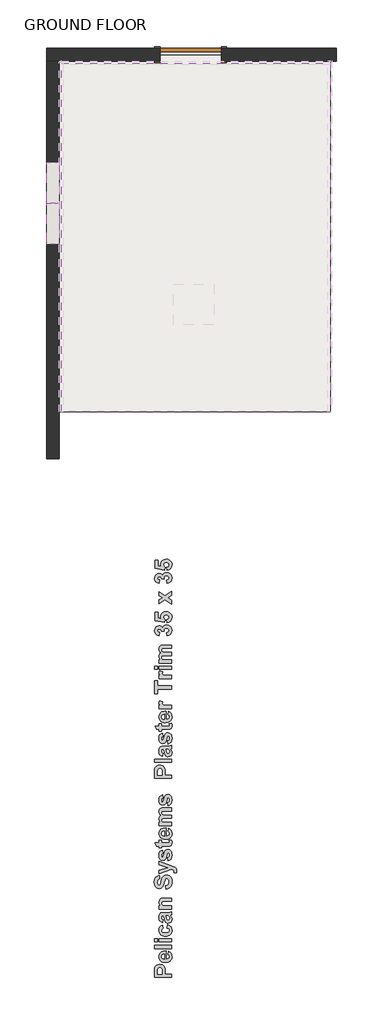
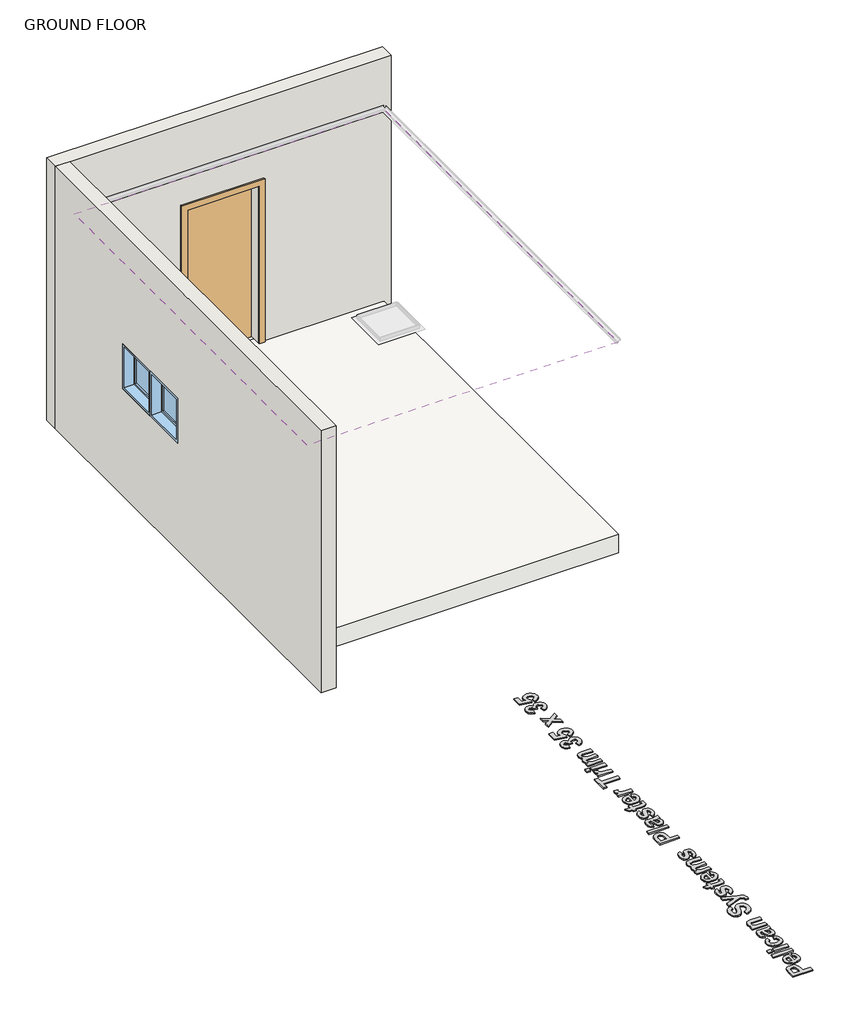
# One storey, part 1 of 2: 2 walls, 2 windows, 1 covering, 1 door, 1 proxy, 1 slab.
"""IFC4 building model written with IfcOpenShell, lengths in millimetres."""

from ifc_helpers import new_model, si_unit, frame, origin, origin_with_axes, place, context, project, spatial, polyline, outline, extrude, faceted_brep, transform, mapped, element, save
from components import m_single_flush_0915_x_2134mm_f5238887, m_fixed_0610_x_0610mm_09852ef8

model = new_model("IFC4")

# Units and contexts
model_context = context("Model", 3, world=origin())
ifc_project = project(units=[si_unit("LENGTHUNIT", "METRE", prefix="MILLI")], contexts=[model_context])

# Site, building, storey
site = spatial("IfcSite", under=ifc_project)
building = spatial("IfcBuilding", under=site)
storey = spatial("IfcBuildingStorey", under=building, Name="GROUND FLOOR", Elevation=0.0)

# Proxy
placement = place(None, origin())
element("IfcBuildingElementProxy", 1, Name="600mm Arial", ObjectType="600mm Arial", at=placement, inside=storey, context=model_context, shape_type="SweptSolid", body=[
    extrude(outline(polyline([(122113.2453886, 28619.5960325), (121858.1805386, 28619.5960325), (121858.1805386, 28701.7709432), (121861.9761465, 28762.6904498), (121871.0302528, 28782.736004), (121886.8057481, 28799.2231757), (121908.7174761, 28810.2541612), (121936.1802807, 28813.9311563), (121957.6650028, 28811.7724043), (121975.4331923, 28805.2961484), (121989.6350918, 28795.490828), (122000.4209442, 28783.3448827), (122012.4719992, 28756.3011766), (122016.0778267, 28702.2137642), (122016.0778267, 28668.1798134), (122113.2453886, 28668.1798134), (122113.2453886, 28619.5960325)]), holes=[polyline([(121902.7156712, 28668.1798134), (121971.5426942, 28668.1798134), (121971.5426942, 28698.3548961), (121967.7470863, 28741.9094966), (121955.8225515, 28759.1162524), (121947.0373008, 28763.7895946), (121936.9394023, 28765.3473753), (121924.8725322, 28763.1569933), (121915.1146569, 28756.5858471), (121908.1244124, 28746.6777291), (121904.3604346, 28734.4764312), (121902.7156712, 28694.8123288), (121902.7156712, 28668.1798134)])]), origin_with_axes(), (0.0, 0.0, 1.0), 15.0),
    extrude(outline(polyline([(122056.5643108, 28959.6824992), (122064.6616077, 29008.2662801), (122087.3324573, 28996.4366355), (122103.8512591, 28979.2931399), (122113.9333426, 28957.0097586), (122117.294037, 28929.760457), (122115.3132042, 28907.7577925), (122109.3707056, 28888.8153369), (122099.4665412, 28872.9330901), (122085.6007112, 28860.1110523), (122056.8964265, 28846.7315345), (122021.518198, 28842.2716952), (121999.6776376, 28843.7504008), (121980.3358525, 28848.1865175), (121963.4928425, 28855.5800453), (121949.1486077, 28865.9309843), (121937.6906163, 28878.5434731), (121929.5063368, 28892.72165), (121924.5957691, 28908.4655152), (121922.9589132, 28925.7750687), (121924.6392605, 28945.0101024), (121929.6803022, 28962.1021992), (121938.0820384, 28977.051359), (121949.8444691, 28989.8575819), (121965.0782995, 29000.0622318), (121983.8942348, 29007.2066729), (122006.2922751, 29011.2909051), (122032.2724204, 29012.3149285), (122032.2724204, 28890.8554761), (122052.7370729, 28893.9710376), (122068.0776548, 28902.3055599), (122077.6615647, 28914.5938405), (122080.8562013, 28929.5706766), (122079.4170333, 28939.7713728), (122075.0995294, 28948.2324154), (122067.5873888, 28954.8905442), (122056.5643108, 28959.6824992)]), holes=[polyline([(122003.9318815, 28963.7311476), (121984.7245241, 28960.7737364), (121970.7519425, 28952.9136651), (121962.2355473, 28941.4952114), (121959.3967489, 28927.862653), (121962.3857902, 28913.4709731), (121971.3529138, 28901.7994789), (121985.5073682, 28894.145003), (122003.9318815, 28891.6778578), (122003.9318815, 28963.7311476)])]), origin_with_axes(), (0.0, 0.0, 1.0), 15.0),
    extrude(outline(polyline([(122113.2453886, 29048.7527642), (121858.1805386, 29048.7527642), (121858.1805386, 29097.3365452), (122113.2453886, 29097.3365452), (122113.2453886, 29048.7527642)])), origin_with_axes(), (0.0, 0.0, 1.0), 15.0),
    extrude(outline(polyline([(121902.7156712, 29145.9203261), (121858.1805386, 29145.9203261), (121858.1805386, 29194.5041071), (121902.7156712, 29194.5041071), (121902.7156712, 29145.9203261)])), origin_with_axes(), (0.0, 0.0, 1.0), 15.0),
    extrude(outline(polyline([(122113.2453886, 29145.9203261), (121927.0075616, 29145.9203261), (121927.0075616, 29194.5041071), (122113.2453886, 29194.5041071), (122113.2453886, 29145.9203261)])), origin_with_axes(), (0.0, 0.0, 1.0), 15.0),
    extrude(outline(polyline([(121979.639991, 29396.9365277), (121987.7372878, 29348.3527468), (121975.3778397, 29344.6283065), (121966.5135137, 29338.0097153), (121961.1759401, 29328.7341985), (121959.3967489, 29317.0389817), (121962.7337209, 29301.6351397), (121972.7446367, 29289.7106049), (121990.5681787, 29282.071944), (122017.3430293, 29279.5257237), (122047.027846, 29282.1747417), (122066.4961515, 29290.1217958), (122077.2661889, 29302.528689), (122080.8562013, 29318.5572248), (122078.8081546, 29330.6952626), (122072.6640143, 29340.4136003), (122061.5065086, 29347.6647928), (122044.4183656, 29352.4013952), (122052.5156624, 29400.9851761), (122080.6585134, 29390.3495665), (122100.9412931, 29372.992568), (122113.205851, 29348.7560301), (122117.294037, 29317.4818026), (122115.6848574, 29298.7152892), (122110.8573187, 29281.9533313), (122102.8114207, 29267.1959287), (122091.5471635, 29254.4430816), (122077.4401542, 29244.1613334), (122060.8659998, 29236.8172275), (122041.8247002, 29232.410764), (122020.3162555, 29230.9419428), (121998.5646547, 29232.4008796), (121979.3632279, 29236.7776899), (121962.7119752, 29244.0723738), (121948.6108965, 29254.2849313), (121937.3881538, 29266.9883564), (121929.3719091, 29281.7556434), (121924.5621622, 29298.5867921), (121922.9589132, 29317.4818026), (121926.461943, 29346.7237984), (121936.9710323, 29369.2918503), (121954.6443316, 29385.8185596), (121979.639991, 29396.9365277)])), origin_with_axes(), (0.0, 0.0, 1.0), 15.0),
    extrude(outline(polyline([(121983.6886394, 29477.909496), (121975.5913426, 29433.3743634), (121952.2483541, 29443.029441), (121935.86398, 29457.8244042), (121926.1851799, 29479.3882015), (121922.9589132, 29509.3497813), (121924.9120698, 29536.4409326), (121930.7715395, 29555.5929374), (121939.6279579, 29568.5296343), (121950.5719606, 29576.9748618), (121967.5810285, 29581.6244815), (121994.6326422, 29583.1743547), (122052.0728415, 29583.1743547), (122088.2576367, 29585.73639), (122113.2453886, 29595.3202999), (122113.2453886, 29546.736519), (122097.8099165, 29542.1817895), (122091.6736838, 29540.473766), (122110.8731337, 29514.4738519), (122115.6888112, 29500.1612472), (122117.294037, 29484.9313705), (122113.3956314, 29460.1571216), (122101.7004146, 29441.2502498), (122084.0587455, 29429.2703624), (122062.3209828, 29425.2770666), (122047.4232219, 29427.0562578), (122034.2334844, 29432.3938314), (122023.3369268, 29440.9418566), (122015.3187051, 29452.3524029), (122003.8686214, 29489.3595797), (121991.7859362, 29534.5905737), (121986.6618656, 29534.5905737), (121974.0414694, 29533.0802381), (121965.659502, 29528.5492312), (121960.9624372, 29519.8430556), (121959.3967489, 29505.8072139), (121960.7410267, 29495.733038), (121964.7738601, 29488.1576372), (121983.6886394, 29477.909496)]), holes=[polyline([(122028.223772, 29534.5905737), (122034.960976, 29507.1989368), (122042.6470819, 29482.6540058), (122049.5582513, 29476.0591371), (122058.1458141, 29473.8608475), (122066.7570995, 29475.6242237), (122074.1189973, 29480.9143522), (122079.1719003, 29488.9246663), (122080.8562013, 29498.8485995), (122078.8951372, 29510.7573192), (122073.011945, 29522.0650677), (122058.4621148, 29532.81929), (122037.0169302, 29534.5905737), (122028.223772, 29534.5905737)])]), origin_with_axes(), (0.0, 0.0, 1.0), 15.0),
    extrude(outline(polyline([(122113.2453886, 29797.7527205), (122113.2453886, 29749.1689396), (122017.5328097, 29749.1689396), (121978.185008, 29746.1324533), (121964.3310392, 29736.2006126), (121959.3967489, 29719.6897183), (121961.1601251, 29707.9312414), (121966.4502536, 29697.4537821), (121974.6582557, 29689.1667049), (121985.1752525, 29683.9793741), (122028.2870321, 29680.3419166), (122113.2453886, 29680.3419166), (122113.2453886, 29631.7581356), (121927.0075616, 29631.7581356), (121927.0075616, 29680.3419166), (121953.8298574, 29680.3419166), (121940.3238193, 29692.6341509), (121930.6766493, 29706.4209058), (121924.8883472, 29721.7021813), (121922.9589132, 29738.4779774), (121928.8421055, 29766.691996), (121943.8347566, 29786.0495962), (121964.4891895, 29795.1906852), (121997.6058683, 29797.7527205), (122113.2453886, 29797.7527205)])), origin_with_axes(), (0.0, 0.0, 1.0), 15.0),
    extrude(outline(polyline([(122028.223772, 29931.3581182), (122024.1751235, 29979.9418991), (122045.9049787, 29987.0270338), (122060.99252, 29998.9199385), (122069.8173084, 30015.6996884), (122072.7589045, 30037.4453586), (122070.1573316, 30060.0134105), (122062.3526129, 30076.2238192), (122051.0685869, 30085.9975095), (122038.0290923, 30089.2554062), (122022.8150307, 30083.846665), (122011.902658, 30064.9002556), (122001.0851756, 30022.7690081), (121989.9039473, 29986.8056234), (121976.2239439, 29963.4310048), (121952.9284005, 29945.4493124), (121925.0464976, 29939.455415), (121906.2582385, 29942.2072307), (121888.7351821, 29950.4626779), (121873.8532362, 29963.9054558), (121862.9883086, 29982.2192638), (121856.3459948, 30005.1036164), (121854.1318902, 30032.2580278), (121859.6513367, 30074.2232175), (121866.5506448, 30090.763765), (121876.2096761, 30104.3429476), (121888.1697947, 30115.0042566), (121901.9723646, 30122.7911834), (121917.6173859, 30127.703728), (121935.1048585, 30129.7418904), (121935.1048585, 30081.1581094), (121918.4120913, 30075.7889058), (121907.1755104, 30066.513389), (121900.7941447, 30052.4775473), (121898.6670228, 30032.827369), (121900.9285725, 30012.141306), (121907.7132216, 29996.5160535), (121914.5136857, 29990.1584103), (121923.2752139, 29988.0391959), (121931.5464761, 29989.9686299), (121938.5209056, 29995.756932), (121946.68937, 30012.5604044), (121955.1266901, 30043.3601809), (121963.9040333, 30076.2317267), (121973.0925674, 30099.250507), (121984.218443, 30115.3818405), (121998.8078108, 30127.5910459), (122017.0425437, 30135.2771519), (122039.1045146, 30137.8391872), (122060.1701383, 30134.8106084), (122079.8440392, 30125.724872), (122096.3865636, 30111.0959666), (122108.0580578, 30091.4378808), (122114.9850422, 30066.5371115), (122117.294037, 30036.180156), (122115.872661, 30013.4776763), (122111.6085327, 29993.5744574), (122104.5016523, 29976.4704994), (122094.5520198, 29962.1658022), (122081.8782478, 29950.5615218), (122066.5989492, 29941.5588144), (122048.7141239, 29935.1576798), (122028.223772, 29931.3581182)])), origin_with_axes(), (0.0, 0.0, 1.0), 15.0),
    extrude(outline(polyline([(121927.0075616, 30158.0824293), (121927.0075616, 30206.6662102), (122058.8416756, 30249.1770185), (121927.0075616, 30291.6878269), (121927.0075616, 30340.2716078), (122105.4643925, 30277.2645169), (122138.6127013, 30265.5613926), (122162.2087304, 30254.0164186), (122175.4300978, 30241.3960224), (122183.3059842, 30223.8413359), (122186.12106, 30200.3401971), (122183.3376143, 30174.2770229), (122147.3425995, 30170.2283745), (122149.6832243, 30189.5227146), (122147.1132815, 30203.2897007), (122139.403453, 30212.9605933), (122113.2453886, 30224.6320875), (121927.0075616, 30158.0824293)])), origin_with_axes(), (0.0, 0.0, 1.0), 15.0),
    extrude(outline(polyline([(122060.6129593, 30348.3689046), (122052.5156624, 30396.9526856), (122064.7564979, 30401.5785827), (122073.6445463, 30409.3833014), (122079.0532876, 30420.6356973), (122080.8562013, 30435.6046259), (122079.1323627, 30451.8466647), (122073.960847, 30463.5023439), (122068.3306953, 30468.2468537), (122061.0557802, 30469.828357), (122051.9463213, 30466.4755701), (122045.557048, 30450.5972771), (122033.1264321, 30403.6740746), (122021.7712386, 30377.7848658), (122003.7895462, 30361.7958675), (121979.9562917, 30356.4662015), (121957.7678006, 30361.036746), (121939.4065474, 30374.7483795), (121927.0708218, 30398.0755529), (121922.9589132, 30431.4927174), (121926.2800701, 30463.3600086), (121936.2435408, 30485.8331703), (121952.7228051, 30500.8416365), (121975.5913426, 30510.3148411), (121983.6886394, 30461.7310602), (121973.2981628, 30458.1568628), (121965.659502, 30452.3685607), (121960.9624372, 30444.0182234), (121959.3967489, 30432.75792), (121960.7252117, 30418.9197662), (121964.7106, 30409.667972), (121974.5791805, 30405.0499824), (121983.3723388, 30409.667972), (121996.973267, 30452.6532313), (122006.7944024, 30483.8800137), (122018.6714921, 30503.988828), (122034.3441897, 30514.8063105), (122055.172588, 30518.412138), (122078.8714147, 30513.1852696), (122098.980229, 30497.5046645), (122106.99252, 30485.7956096), (122112.715585, 30471.5759182), (122117.294037, 30435.6046259), (122113.4826141, 30402.2902592), (122102.0483454, 30376.7410736), (122084.066653, 30358.8147339), (122060.6129593, 30348.3689046)])), origin_with_axes(), (0.0, 0.0, 1.0), 15.0),
    extrude(outline(polyline([(121927.0075616, 30652.0175356), (121963.4453974, 30652.0175356), (121963.4453974, 30615.5796999), (122043.3429434, 30615.5796999), (122071.5885921, 30616.6867522), (122078.2309059, 30621.7159326), (122080.8562013, 30631.2682125), (122076.1749516, 30654.0418598), (122110.7149834, 30656.066184), (122115.6492736, 30637.3253701), (122117.294037, 30616.2755613), (122112.7393076, 30591.7306303), (122100.9729231, 30575.694187), (122081.4255425, 30568.5774222), (122046.063129, 30566.9959189), (121963.4453974, 30566.9959189), (121963.4453974, 30542.7040284), (121927.0075616, 30542.7040284), (121927.0075616, 30566.9959189), (121890.5697259, 30566.9959189), (121862.229187, 30615.5796999), (121927.0075616, 30615.5796999), (121927.0075616, 30652.0175356)])), origin_with_axes(), (0.0, 0.0, 1.0), 15.0),
    extrude(outline(polyline([(122056.5643108, 30785.6229332), (122064.6616077, 30834.2067142), (122087.3324573, 30822.3770696), (122103.8512591, 30805.2335739), (122113.9333426, 30782.9501926), (122117.294037, 30755.700891), (122115.3132042, 30733.6982266), (122109.3707056, 30714.7557709), (122099.4665412, 30698.8735242), (122085.6007112, 30686.0514863), (122056.8964265, 30672.6719685), (122021.518198, 30668.2121292), (121999.6776376, 30669.6908348), (121980.3358525, 30674.1269515), (121963.4928425, 30681.5204794), (121949.1486077, 30691.8714184), (121937.6906163, 30704.4839071), (121929.5063368, 30718.6620841), (121924.5957691, 30734.4059493), (121922.9589132, 30751.7155027), (121924.6392605, 30770.9505365), (121929.6803022, 30788.0426332), (121938.0820384, 30802.991793), (121949.8444691, 30815.7980159), (121965.0782995, 30826.0026659), (121983.8942348, 30833.1471069), (122006.2922751, 30837.2313392), (122032.2724204, 30838.2553626), (122032.2724204, 30716.7959102), (122052.7370729, 30719.9114717), (122068.0776548, 30728.245994), (122077.6615647, 30740.5342745), (122080.8562013, 30755.5111106), (122079.4170333, 30765.7118068), (122075.0995294, 30774.1728494), (122067.5873888, 30780.8309782), (122056.5643108, 30785.6229332)]), holes=[polyline([(122003.9318815, 30789.6715816), (121984.7245241, 30786.7141705), (121970.7519425, 30778.8540991), (121962.2355473, 30767.4356454), (121959.3967489, 30753.8030871), (121962.3857902, 30739.4114072), (121971.3529138, 30727.7399129), (121985.5073682, 30720.085437), (122003.9318815, 30717.6182919), (122003.9318815, 30789.6715816)])]), origin_with_axes(), (0.0, 0.0, 1.0), 15.0),
    extrude(outline(polyline([(121927.0075616, 30870.6445499), (121927.0075616, 30919.2283308), (121951.9320534, 30919.2283308), (121939.2563046, 30931.1884494), (121930.2021983, 30944.2318978), (121924.7697345, 30958.3586759), (121922.9589132, 30973.5687837), (121924.7381044, 30989.2177587), (121930.075678, 31002.6368141), (121939.0190791, 31013.8417649), (121951.6157528, 31022.8484261), (121939.0190791, 31035.2869495), (121930.075678, 31048.6901898), (121924.7381044, 31063.0423321), (121922.9589132, 31078.3275614), (121925.0385901, 31096.7837047), (121931.2776205, 31112.1717317), (121941.5494844, 31124.2860469), (121955.7276613, 31132.9210548), (121971.3054687, 31136.6217725), (121994.2530814, 31137.8553451), (122113.2453886, 31137.8553451), (122113.2453886, 31089.2715641), (122006.0194658, 31089.2715641), (121983.0718531, 31088.0379916), (121970.024451, 31084.3372739), (121962.0536745, 31075.9553065), (121959.3967489, 31063.9675116), (121960.9861597, 31054.2649889), (121965.7543922, 31045.1476225), (121973.5907409, 31037.5564067), (121984.3845009, 31032.432336), (122023.1629614, 31028.541838), (122113.2453886, 31028.541838), (122113.2453886, 30979.958057), (122010.447675, 30979.958057), (121975.1168916, 30977.4276517), (121963.287247, 30969.6150255), (121959.3967489, 30955.2233456), (121960.9387146, 30944.832869), (121965.5646118, 30935.5494447), (121973.1083824, 30928.0531192), (121983.4039688, 30923.0239387), (122022.0875392, 30919.2283308), (122113.2453886, 30919.2283308), (122113.2453886, 30870.6445499), (121927.0075616, 30870.6445499)])), origin_with_axes(), (0.0, 0.0, 1.0), 15.0),
    extrude(outline(polyline([(122060.6129593, 31166.195884), (122052.5156624, 31214.7796649), (122064.7564979, 31219.405562), (122073.6445463, 31227.2102808), (122079.0532876, 31238.4626766), (122080.8562013, 31253.4316052), (122079.1323627, 31269.673644), (122073.960847, 31281.3293232), (122068.3306953, 31286.0738331), (122061.0557802, 31287.6553364), (122051.9463213, 31284.3025494), (122045.557048, 31268.4242564), (122033.1264321, 31221.5010539), (122021.7712386, 31195.6118451), (122003.7895462, 31179.6228469), (121979.9562917, 31174.2931808), (121957.7678006, 31178.8637253), (121939.4065474, 31192.5753588), (121927.0708218, 31215.9025323), (121922.9589132, 31249.3196967), (121926.2800701, 31281.1869879), (121936.2435408, 31303.6601496), (121952.7228051, 31318.6686158), (121975.5913426, 31328.1418205), (121983.6886394, 31279.5580395), (121973.2981628, 31275.9838421), (121965.659502, 31270.1955401), (121960.9624372, 31261.8452027), (121959.3967489, 31250.5848993), (121960.7252117, 31236.7467456), (121964.7106, 31227.4949513), (121974.5791805, 31222.8769618), (121983.3723388, 31227.4949513), (121996.973267, 31270.4802107), (122006.7944024, 31301.7069931), (122018.6714921, 31321.8158073), (122034.3441897, 31332.6332898), (122055.172588, 31336.2391173), (122078.8714147, 31331.0122489), (122098.980229, 31315.3316439), (122106.99252, 31303.6225889), (122112.715585, 31289.4028975), (122117.294037, 31253.4316052), (122113.4826141, 31220.1172385), (122102.0483454, 31194.5680529), (122084.066653, 31176.6417132), (122060.6129593, 31166.195884)])), origin_with_axes(), (0.0, 0.0, 1.0), 15.0),
    extrude(outline(polyline([(122113.2453886, 31575.1093736), (121858.1805386, 31575.1093736), (121858.1805386, 31657.2842844), (121861.9761465, 31718.203791), (121871.0302528, 31738.2493451), (121886.8057481, 31754.7365169), (121908.7174761, 31765.7675023), (121936.1802807, 31769.4444974), (121957.6650028, 31767.2857455), (121975.4331923, 31760.8094895), (121989.6350918, 31751.0041691), (122000.4209442, 31738.8582239), (122012.4719992, 31711.8145177), (122016.0778267, 31657.7271053), (122016.0778267, 31623.6931546), (122113.2453886, 31623.6931546), (122113.2453886, 31575.1093736)]), holes=[polyline([(121902.7156712, 31623.6931546), (121971.5426942, 31623.6931546), (121971.5426942, 31653.8682373), (121967.7470863, 31697.4228378), (121955.8225515, 31714.6295935), (121947.0373008, 31719.3029358), (121936.9394023, 31720.8607165), (121924.8725322, 31718.6703344), (121915.1146569, 31712.0991883), (121908.1244124, 31702.1910702), (121904.3604346, 31689.9897723), (121902.7156712, 31650.3256699), (121902.7156712, 31623.6931546)])]), origin_with_axes(), (0.0, 0.0, 1.0), 15.0),
    extrude(outline(polyline([(122113.2453886, 31809.9309816), (121858.1805386, 31809.9309816), (121858.1805386, 31858.5147625), (122113.2453886, 31858.5147625), (122113.2453886, 31809.9309816)])), origin_with_axes(), (0.0, 0.0, 1.0), 15.0),
    extrude(outline(polyline([(121983.6886394, 31947.5850276), (121975.5913426, 31903.0498951), (121952.2483541, 31912.7049726), (121935.86398, 31927.4999359), (121926.1851799, 31949.0637332), (121922.9589132, 31979.0253129), (121924.9120698, 32006.1164642), (121930.7715395, 32025.268469), (121939.6279579, 32038.2051659), (121950.5719606, 32046.6503934), (121967.5810285, 32051.3000131), (121994.6326422, 32052.8498863), (122052.0728415, 32052.8498863), (122088.2576367, 32055.4119216), (122113.2453886, 32064.9958316), (122113.2453886, 32016.4120506), (122097.8099165, 32011.8573211), (122091.6736838, 32010.1492976), (122110.8731337, 31984.1493836), (122115.6888112, 31969.8367788), (122117.294037, 31954.6069022), (122113.3956314, 31929.8326532), (122101.7004146, 31910.9257814), (122084.0587455, 31898.945894), (122062.3209828, 31894.9525982), (122047.4232219, 31896.7317894), (122034.2334844, 31902.069363), (122023.3369268, 31910.6173883), (122015.3187051, 31922.0279345), (122003.8686214, 31959.0351114), (121991.7859362, 32004.2661054), (121986.6618656, 32004.2661054), (121974.0414694, 32002.7557697), (121965.659502, 31998.2247628), (121960.9624372, 31989.5185872), (121959.3967489, 31975.4827456), (121960.7410267, 31965.4085696), (121964.7738601, 31957.8331689), (121983.6886394, 31947.5850276)]), holes=[polyline([(122028.223772, 32004.2661054), (122034.960976, 31976.8744685), (122042.6470819, 31952.3295375), (122049.5582513, 31945.7346688), (122058.1458141, 31943.5363792), (122066.7570995, 31945.2997553), (122074.1189973, 31950.5898838), (122079.1719003, 31958.600198), (122080.8562013, 31968.5241311), (122078.8951372, 31980.4328508), (122073.011945, 31991.7405993), (122058.4621148, 32002.4948217), (122037.0169302, 32004.2661054), (122028.223772, 32004.2661054)])]), origin_with_axes(), (0.0, 0.0, 1.0), 15.0),
    extrude(outline(polyline([(122060.6129593, 32081.1904252), (122052.5156624, 32129.7742062), (122064.7564979, 32134.4001033), (122073.6445463, 32142.204822), (122079.0532876, 32153.4572179), (122080.8562013, 32168.4261465), (122079.1323627, 32184.6681852), (122073.960847, 32196.3238644), (122068.3306953, 32201.0683743), (122061.0557802, 32202.6498776), (122051.9463213, 32199.2970906), (122045.557048, 32183.4187976), (122033.1264321, 32136.4955951), (122021.7712386, 32110.6063863), (122003.7895462, 32094.6173881), (121979.9562917, 32089.287722), (121957.7678006, 32093.8582665), (121939.4065474, 32107.5699), (121927.0708218, 32130.8970735), (121922.9589132, 32164.3142379), (121926.2800701, 32196.1815291), (121936.2435408, 32218.6546908), (121952.7228051, 32233.663157), (121975.5913426, 32243.1363617), (121983.6886394, 32194.5525808), (121973.2981628, 32190.9783833), (121965.659502, 32185.1900813), (121960.9624372, 32176.839744), (121959.3967489, 32165.5794406), (121960.7252117, 32151.7412868), (121964.7106, 32142.4894926), (121974.5791805, 32137.871503), (121983.3723388, 32142.4894926), (121996.973267, 32185.4747519), (122006.7944024, 32216.7015343), (122018.6714921, 32236.8103486), (122034.3441897, 32247.627831), (122055.172588, 32251.2336585), (122078.8714147, 32246.0067902), (122098.980229, 32230.3261851), (122106.99252, 32218.6171301), (122112.715585, 32204.3974387), (122117.294037, 32168.4261465), (122113.4826141, 32135.1117798), (122102.0483454, 32109.5625942), (122084.066653, 32091.6362544), (122060.6129593, 32081.1904252)])), origin_with_axes(), (0.0, 0.0, 1.0), 15.0),
    extrude(outline(polyline([(121927.0075616, 32384.8390561), (121963.4453974, 32384.8390561), (121963.4453974, 32348.4012204), (122043.3429434, 32348.4012204), (122071.5885921, 32349.5082727), (122078.2309059, 32354.5374532), (122080.8562013, 32364.089733), (122076.1749516, 32386.8633804), (122110.7149834, 32388.8877046), (122115.6492736, 32370.1468906), (122117.294037, 32349.0970819), (122112.7393076, 32324.5521509), (122100.9729231, 32308.5157076), (122081.4255425, 32301.3989428), (122046.063129, 32299.8174395), (121963.4453974, 32299.8174395), (121963.4453974, 32275.525549), (121927.0075616, 32275.525549), (121927.0075616, 32299.8174395), (121890.5697259, 32299.8174395), (121862.229187, 32348.4012204), (121927.0075616, 32348.4012204), (121927.0075616, 32384.8390561)])), origin_with_axes(), (0.0, 0.0, 1.0), 15.0),
    extrude(outline(polyline([(122056.5643108, 32518.4444538), (122064.6616077, 32567.0282347), (122087.3324573, 32555.1985901), (122103.8512591, 32538.0550945), (122113.9333426, 32515.7717132), (122117.294037, 32488.5224116), (122115.3132042, 32466.5197471), (122109.3707056, 32447.5772915), (122099.4665412, 32431.6950448), (122085.6007112, 32418.8730069), (122056.8964265, 32405.4934891), (122021.518198, 32401.0336498), (121999.6776376, 32402.5123554), (121980.3358525, 32406.9484721), (121963.4928425, 32414.342), (121949.1486077, 32424.692939), (121937.6906163, 32437.3054277), (121929.5063368, 32451.4836046), (121924.5957691, 32467.2274698), (121922.9589132, 32484.5370233), (121924.6392605, 32503.772057), (121929.6803022, 32520.8641538), (121938.0820384, 32535.8133136), (121949.8444691, 32548.6195365), (121965.0782995, 32558.8241864), (121983.8942348, 32565.9686275), (122006.2922751, 32570.0528597), (122032.2724204, 32571.0768831), (122032.2724204, 32449.6174307), (122052.7370729, 32452.7329922), (122068.0776548, 32461.0675145), (122077.6615647, 32473.3557951), (122080.8562013, 32488.3326312), (122079.4170333, 32498.5333274), (122075.0995294, 32506.99437), (122067.5873888, 32513.6524988), (122056.5643108, 32518.4444538)]), holes=[polyline([(122003.9318815, 32522.4931022), (121984.7245241, 32519.535691), (121970.7519425, 32511.6756197), (121962.2355473, 32500.257166), (121959.3967489, 32486.6246076), (121962.3857902, 32472.2329277), (121971.3529138, 32460.5614335), (121985.5073682, 32452.9069576), (122003.9318815, 32450.4398125), (122003.9318815, 32522.4931022)])]), origin_with_axes(), (0.0, 0.0, 1.0), 15.0),
    extrude(outline(polyline([(122113.2453886, 32656.0984998), (122113.2453886, 32607.5147188), (121927.0075616, 32607.5147188), (121927.0075616, 32656.0984998), (121952.9442155, 32656.0984998), (121928.7472153, 32675.5193601), (121922.9589132, 32695.1300009), (121925.5209486, 32710.2966174), (121933.2070545, 32724.9255228), (121979.4502106, 32710.7552534), (121973.5195733, 32699.052129), (121971.5426942, 32688.2346466), (121977.0779557, 32671.122781), (121984.8352293, 32664.875843), (121997.0365272, 32660.1155181), (122057.5132128, 32656.0984998), (122113.2453886, 32656.0984998)])), origin_with_axes(), (0.0, 0.0, 1.0), 15.0),
    extrude(outline(polyline([(122113.2453886, 32899.0174045), (121902.7156712, 32899.0174045), (121902.7156712, 32826.1417331), (121858.1805386, 32826.1417331), (121858.1805386, 33020.4768569), (121902.7156712, 33020.4768569), (121902.7156712, 32947.6011855), (122113.2453886, 32947.6011855), (122113.2453886, 32899.0174045)])), origin_with_axes(), (0.0, 0.0, 1.0), 15.0),
    extrude(outline(polyline([(122113.2453886, 33101.4498252), (122113.2453886, 33052.8660442), (121927.0075616, 33052.8660442), (121927.0075616, 33101.4498252), (121952.9442155, 33101.4498252), (121928.7472153, 33120.8706855), (121922.9589132, 33140.4813263), (121925.5209486, 33155.6479428), (121933.2070545, 33170.2768482), (121979.4502106, 33156.1065787), (121973.5195733, 33144.4034544), (121971.5426942, 33133.5859719), (121977.0779557, 33116.4741064), (121984.8352293, 33110.2271684), (121997.0365272, 33105.4668435), (122057.5132128, 33101.4498252), (122113.2453886, 33101.4498252)])), origin_with_axes(), (0.0, 0.0, 1.0), 15.0),
    extrude(outline(polyline([(121902.7156712, 33190.5200902), (121858.1805386, 33190.5200902), (121858.1805386, 33239.1038712), (121902.7156712, 33239.1038712), (121902.7156712, 33190.5200902)])), origin_with_axes(), (0.0, 0.0, 1.0), 15.0),
    extrude(outline(polyline([(122113.2453886, 33190.5200902), (121927.0075616, 33190.5200902), (121927.0075616, 33239.1038712), (122113.2453886, 33239.1038712), (122113.2453886, 33190.5200902)])), origin_with_axes(), (0.0, 0.0, 1.0), 15.0),
    extrude(outline(polyline([(121927.0075616, 33283.6390037), (121927.0075616, 33332.2227847), (121951.9320534, 33332.2227847), (121939.2563046, 33344.1829033), (121930.2021983, 33357.2263516), (121924.7697345, 33371.3531297), (121922.9589132, 33386.5632376), (121924.7381044, 33402.2122126), (121930.075678, 33415.631268), (121939.0190791, 33426.8362188), (121951.6157528, 33435.84288), (121939.0190791, 33448.2814033), (121930.075678, 33461.6846437), (121924.7381044, 33476.036786), (121922.9589132, 33491.3220153), (121925.0385901, 33509.7781586), (121931.2776205, 33525.1661856), (121941.5494844, 33537.2805008), (121955.7276613, 33545.9155087), (121971.3054687, 33549.6162264), (121994.2530814, 33550.849799), (122113.2453886, 33550.849799), (122113.2453886, 33502.266018), (122006.0194658, 33502.266018), (121983.0718531, 33501.0324454), (121970.024451, 33497.3317278), (121962.0536745, 33488.9497603), (121959.3967489, 33476.9619654), (121960.9861597, 33467.2594428), (121965.7543922, 33458.1420763), (121973.5907409, 33450.5508606), (121984.3845009, 33445.4267899), (122023.1629614, 33441.5362918), (122113.2453886, 33441.5362918), (122113.2453886, 33392.9525109), (122010.447675, 33392.9525109), (121975.1168916, 33390.4221056), (121963.287247, 33382.6094794), (121959.3967489, 33368.2177995), (121960.9387146, 33357.8273229), (121965.5646118, 33348.5438986), (121973.1083824, 33341.047573), (121983.4039688, 33336.0183926), (122022.0875392, 33332.2227847), (122113.2453886, 33332.2227847), (122113.2453886, 33283.6390037), (121927.0075616, 33283.6390037)])), origin_with_axes(), (0.0, 0.0, 1.0), 15.0),
    extrude(outline(polyline([(122041.9512205, 33688.503845), (122036.3210688, 33737.0876259), (122051.9463213, 33740.8357887), (122063.396405, 33748.0316287), (122070.4182796, 33757.8843941), (122072.7589045, 33769.6033335), (122070.0782564, 33782.1762846), (122062.0363122, 33792.5667612), (122049.4554536, 33799.5411907), (122033.1580622, 33801.8660005), (122017.7384052, 33799.7388786), (122005.8929456, 33793.3575129), (121998.3491749, 33783.9080307), (121995.8345847, 33772.5765597), (121999.4404122, 33753.2822196), (121959.3967489, 33757.5206484), (121957.6570953, 33771.3508946), (121951.4259724, 33781.4646081), (121941.5573919, 33787.6561935), (121928.9053656, 33789.7200553), (121918.1590508, 33788.1780896), (121909.832436, 33783.5521925), (121904.4948624, 33776.36426), (121902.7156712, 33767.1361884), (121904.779533, 33757.7499664), (121910.9711183, 33749.8345424), (121921.1322769, 33744.0699629), (121935.1048585, 33741.1362743), (121927.8299434, 33692.5524934), (121906.0921807, 33698.1114774), (121889.2096331, 33705.9320112), (121876.2966588, 33716.6546035), (121866.4676159, 33730.9197631), (121860.2523079, 33747.9130159), (121858.1805386, 33766.8198877), (121863.9213956, 33797.4694214), (121871.0974667, 33810.2558755), (121881.1439663, 33821.350121), (121901.1657979, 33834.0654074), (121923.6547747, 33838.3038362), (121939.6002816, 33836.0304253), (121953.8456724, 33829.2101924), (121966.3909472, 33817.8431375), (121977.236106, 33801.9292607), (121984.7877842, 33821.7929419), (121998.0803193, 33837.228414), (122015.9433989, 33847.1444396), (122037.2067106, 33850.4497815), (122067.9748571, 33844.5903118), (122093.8561583, 33827.0119028), (122104.1102303, 33814.5753563), (122111.4345674, 33800.7035956), (122117.294037, 33768.6544315), (122112.0829837, 33738.3923661), (122096.4498237, 33713.7762675), (122072.4030663, 33696.5616042), (122041.9512205, 33688.503845)])), origin_with_axes(), (0.0, 0.0, 1.0), 15.0),
    extrude(outline(polyline([(122041.4451394, 33882.8389688), (122036.3210688, 33927.3741013), (122051.3927951, 33931.5176399), (122062.9535841, 33939.7730871), (122070.3075744, 33950.8752402), (122072.7589045, 33963.5588965), (122070.1573316, 33977.7528885), (122062.3526129, 33989.5904406), (122049.3131183, 33997.5849397), (122031.0072177, 34000.2497727), (122013.8479071, 33997.7747201), (122001.5912566, 33990.3495622), (121994.2372663, 33978.954831), (121991.7859362, 33964.5710586), (121996.8467468, 33945.7511695), (122012.0291783, 33929.0188647), (122005.7664253, 33886.8876172), (121862.229187, 33915.2281561), (121862.229187, 34036.6876085), (121910.812968, 34036.6876085), (121910.812968, 33954.5126977), (121957.1826443, 33944.7073773), (121949.7337639, 33960.1902945), (121947.2508037, 33976.0211424), (121952.9995682, 34004.1402708), (121970.2458615, 34027.6414097), (121996.6648739, 34043.5355177), (122029.9317955, 34048.8335537), (122058.8574906, 34044.4211595), (122084.5252889, 34031.183977), (122098.8616162, 34017.9665633), (122109.10185, 34002.4164323), (122115.2459903, 33984.5335838), (122117.294037, 33964.3180181), (122112.1541514, 33933.3126462), (122096.7344943, 33908.6174723), (122072.6323842, 33891.4028091), (122041.4451394, 33882.8389688)])), origin_with_axes(), (0.0, 0.0, 1.0), 15.0),
    extrude(outline(polyline([(122113.2453886, 34160.171385), (122017.3430293, 34225.9619217), (121927.0075616, 34168.2686819), (121927.0075616, 34226.0251819), (121978.185008, 34254.1126802), (121927.0075616, 34284.6040636), (121927.0075616, 34342.3605636), (122015.1921849, 34282.9593002), (122113.2453886, 34350.4578604), (122113.2453886, 34292.7013604), (122055.5521487, 34254.1126802), (122113.2453886, 34217.9278851), (122113.2453886, 34160.171385)])), origin_with_axes(), (0.0, 0.0, 1.0), 15.0),
    extrude(outline(polyline([(122041.9512205, 34465.8443402), (122036.3210688, 34514.4281211), (122051.9463213, 34518.1762839), (122063.396405, 34525.3721239), (122070.4182796, 34535.2248894), (122072.7589045, 34546.9438287), (122070.0782564, 34559.5167798), (122062.0363122, 34569.9072564), (122049.4554536, 34576.8816859), (122033.1580622, 34579.2064957), (122017.7384052, 34577.0793738), (122005.8929456, 34570.6980081), (121998.3491749, 34561.2485259), (121995.8345847, 34549.9170549), (121999.4404122, 34530.6227148), (121959.3967489, 34534.8611436), (121957.6570953, 34548.6913898), (121951.4259724, 34558.8051033), (121941.5573919, 34564.9966887), (121928.9053656, 34567.0605505), (121918.1590508, 34565.5185848), (121909.832436, 34560.8926877), (121904.4948624, 34553.7047553), (121902.7156712, 34544.4766836), (121904.779533, 34535.0904616), (121910.9711183, 34527.1750376), (121921.1322769, 34521.4104581), (121935.1048585, 34518.4767696), (121927.8299434, 34469.8929886), (121906.0921807, 34475.4519727), (121889.2096331, 34483.2725064), (121876.2966588, 34493.9950987), (121866.4676159, 34508.2602583), (121860.2523079, 34525.2535111), (121858.1805386, 34544.1603829), (121863.9213956, 34574.8099166), (121871.0974667, 34587.5963707), (121881.1439663, 34598.6906162), (121901.1657979, 34611.4059026), (121923.6547747, 34615.6443315), (121939.6002816, 34613.3709205), (121953.8456724, 34606.5506876), (121966.3909472, 34595.1836327), (121977.236106, 34579.2697559), (121984.7877842, 34599.1334371), (121998.0803193, 34614.5689092), (122015.9433989, 34624.4849348), (122037.2067106, 34627.7902767), (122067.9748571, 34621.930807), (122093.8561583, 34604.352398), (122104.1102303, 34591.9158515), (122111.4345674, 34578.0440908), (122117.294037, 34545.9949267), (122112.0829837, 34515.7328614), (122096.4498237, 34491.1167627), (122072.4030663, 34473.9020994), (122041.9512205, 34465.8443402)])), origin_with_axes(), (0.0, 0.0, 1.0), 15.0),
    extrude(outline(polyline([(122041.4451394, 34660.179464), (122036.3210688, 34704.7145965), (122051.3927951, 34708.8581351), (122062.9535841, 34717.1135823), (122070.3075744, 34728.2157354), (122072.7589045, 34740.8993917), (122070.1573316, 34755.0933837), (122062.3526129, 34766.9309358), (122049.3131183, 34774.9254349), (122031.0072177, 34777.590268), (122013.8479071, 34775.1152153), (122001.5912566, 34767.6900574), (121994.2372663, 34756.2953262), (121991.7859362, 34741.9115538), (121996.8467468, 34723.0916647), (122012.0291783, 34706.3593599), (122005.7664253, 34664.2281124), (121862.229187, 34692.5686513), (121862.229187, 34814.0281037), (121910.812968, 34814.0281037), (121910.812968, 34731.8531929), (121957.1826443, 34722.0478725), (121949.7337639, 34737.5307897), (121947.2508037, 34753.3616376), (121952.9995682, 34781.480766), (121970.2458615, 34804.9819049), (121996.6648739, 34820.8760129), (122029.9317955, 34826.1740489), (122058.8574906, 34821.7616547), (122084.5252889, 34808.5244722), (122098.8616162, 34795.3070585), (122109.10185, 34779.7569275), (122115.2459903, 34761.874079), (122117.294037, 34741.6585133), (122112.1541514, 34710.6531414), (122096.7344943, 34685.9579676), (122072.6323842, 34668.7433043), (122041.4451394, 34660.179464)])), origin_with_axes(), (0.0, 0.0, 1.0), 15.0),
])

# Covering
element("IfcCovering", 2, ObjectType="_C2.3 - 12mm FLUSHPLASTER CEILING (UNDER CONCRETE SOFFIT)", at=placement, inside=storey, context=model_context, shape_type="SweptSolid", body=[
    extrude(outline(polyline([(120478.7345529, 42181.9193804), (124466.7345529, 42181.9193804), (124466.7345529, 37012.9193804), (120478.7345529, 37012.9193804), (120478.7345529, 42181.9193804)]), holes=[polyline([(122182.6212716, 38859.9489557), (122182.6212716, 38349.2489557), (122693.3212716, 38349.2489557), (122693.3212716, 38859.9489557), (122182.6212716, 38859.9489557)])]), frame((0.0, 0.0, 2600.0), z_axis=(0.0, 0.0, 1.0), x_axis=(1.0, 0.0, 0.0)), (0.0, 0.0, 1.0), 11.0),
])

# Door
m_single_flush_0915_x_2134mm_shape = m_single_flush_0915_x_2134mm_f5238887(model_context)
element("IfcDoor", 3, ObjectType="M_Single-Flush : 0915 x 2134mm", at=placement, inside=storey, context=model_context, shape_type="MappedRepresentation", body=[
    mapped(m_single_flush_0915_x_2134mm_shape, transform((122394.7345529, 42312.9193804, 0.0), x_axis=(1.0, 0.0, 0.0), y_axis=(0.0, 1.0, 0.0), z_axis=(0.0, 0.0, 1.0))),
])

# Slab
element("IfcSlab", 4, ObjectType="Generic Floor - 250mm", at=placement, inside=storey, context=model_context, shape_type="Brep", body=[
    faceted_brep([(120366.7345529, 42312.9193804, -250.0), (124466.7345529, 42312.9193804, -250.0), (124466.7345529, 42217.9193804, -250.0), (124466.7345529, 37012.9193804, -250.0), (120366.7345529, 37012.9193804, -250.0), (120366.7345529, 42217.9193804, -250.0), (120366.7345529, 42312.9193804, 0.0), (120366.7345529, 42217.9193804, 0.0), (120366.7345529, 37012.9193804, 0.0), (124466.7345529, 37012.9193804, 0.0), (124466.7345529, 42217.9193804, 0.0), (124466.7345529, 42312.9193804, 0.0), (122852.2345529, 42312.9193804, 0.0), (121937.2345529, 42312.9193804, 0.0)], [[[0, 1, 2, 3, 4, 5]], [[6, 7, 8, 9, 10, 11, 12, 13]], [[1, 0, 6, 13, 12, 11]], [[3, 2, 1, 11, 10, 9]], [[4, 3, 9, 8]], [[0, 5, 4, 8, 7, 6]]]),
])

# Walls
element("IfcWall", 5, ObjectType="190mm MAXI BLOCK- plastered", at=placement, inside=storey, context=model_context, shape_type="Brep", body=[
    faceted_brep([(124561.7345529, 42217.9193804, -250.0), (124561.7345529, 42217.9193804, 3300.0), (120442.7345529, 42217.9193804, 3300.0), (120252.7345529, 42217.9193804, 3300.0), (120252.7345529, 42217.9193804, -250.0), (120366.7345529, 42217.9193804, -250.0), (120366.7345529, 42217.9193804, 0.0), (121937.2345529, 42217.9193804, 0.0), (121937.2345529, 42217.9193804, 2134.0), (122852.2345529, 42217.9193804, 2134.0), (122852.2345529, 42217.9193804, 0.0), (124466.7345529, 42217.9193804, 0.0), (124466.7345529, 42217.9193804, -250.0), (124561.7345529, 42407.9193804, -250.0), (120252.7345529, 42407.9193804, -250.0), (120252.7345529, 42407.9193804, 3300.0), (124561.7345529, 42407.9193804, 3300.0), (121937.2345529, 42407.9193804, 0.0), (122852.2345529, 42407.9193804, 0.0), (122852.2345529, 42407.9193804, 2134.0), (121937.2345529, 42407.9193804, 2134.0), (124466.7345529, 42312.9193804, -250.0), (120366.7345529, 42312.9193804, -250.0), (121937.2345529, 42312.9193804, 0.0), (122852.2345529, 42312.9193804, 0.0), (120366.7345529, 42312.9193804, 0.0), (124466.7345529, 42312.9193804, 0.0)], [[[0, 1, 2, 3, 4, 5, 6, 7, 8, 9, 10, 11, 12]], [[13, 14, 15, 16], [17, 18, 19, 20]], [[14, 13, 0, 12, 21, 22, 5, 4]], [[1, 0, 13, 16]], [[3, 2, 1, 16, 15]], [[18, 17, 23, 24]], [[19, 18, 24, 10, 9]], [[20, 19, 9, 8]], [[17, 20, 8, 7, 23]], [[25, 23, 7, 6]], [[24, 26, 11, 10]], [[25, 22, 21, 26, 24, 23]], [[22, 25, 6, 5]], [[26, 21, 12, 11]], [[4, 3, 15, 14]]]),
])
element("IfcWall", 6, ObjectType="190mm MAXI BLOCK- plastered", at=placement, inside=storey, context=model_context, shape_type="Brep", body=[
    faceted_brep([(120442.7345529, 36312.9193804, -250.0), (120442.7345529, 42217.9193804, -250.0), (120442.7345529, 42217.9193804, 3300.0), (120442.7345529, 36312.9193804, 3300.0), (120442.7345529, 39497.9193804, 1810.0), (120442.7345529, 40717.9193804, 1810.0), (120442.7345529, 40717.9193804, 1200.0), (120442.7345529, 39497.9193804, 1200.0), (120252.7345529, 42217.9193804, -250.0), (120252.7345529, 36312.9193804, -250.0), (120252.7345529, 36312.9193804, 3300.0), (120252.7345529, 42217.9193804, 3300.0), (120252.7345529, 39497.9193804, 1200.0), (120252.7345529, 40717.9193804, 1200.0), (120252.7345529, 40717.9193804, 1810.0), (120252.7345529, 39497.9193804, 1810.0), (120366.7345529, 42217.9193804, -250.0)], [[[0, 1, 2, 3], [4, 5, 6, 7]], [[8, 9, 10, 11], [12, 13, 14, 15]], [[1, 0, 9, 8, 16]], [[3, 2, 11, 10]], [[0, 3, 10, 9]], [[2, 1, 16, 8, 11]], [[14, 13, 6, 5]], [[14, 5, 4, 15]], [[12, 7, 6, 13]], [[15, 4, 7, 12]]]),
])

# Windows
m_fixed_0610_x_0610mm_shape = m_fixed_0610_x_0610mm_09852ef8(model_context)
element("IfcWindow", 7, ObjectType="M_Fixed : 0610 x 0610mm", at=placement, inside=storey, context=model_context, shape_type="MappedRepresentation", body=[
    mapped(m_fixed_0610_x_0610mm_shape, transform((120334.7345529, 40412.9193804, 285.0), x_axis=(0.0, -1.0, 0.0), y_axis=(1.0, 0.0, 0.0), z_axis=(0.0, 0.0, 1.0))),
])
element("IfcWindow", 8, ObjectType="M_Fixed : 0610 x 0610mm", at=placement, inside=storey, context=model_context, shape_type="MappedRepresentation", body=[
    mapped(m_fixed_0610_x_0610mm_shape, transform((120334.7345529, 39802.9193804, 285.0), x_axis=(0.0, -1.0, 0.0), y_axis=(1.0, 0.0, 0.0), z_axis=(0.0, 0.0, 1.0))),
])

save(model, "model.ifc")
